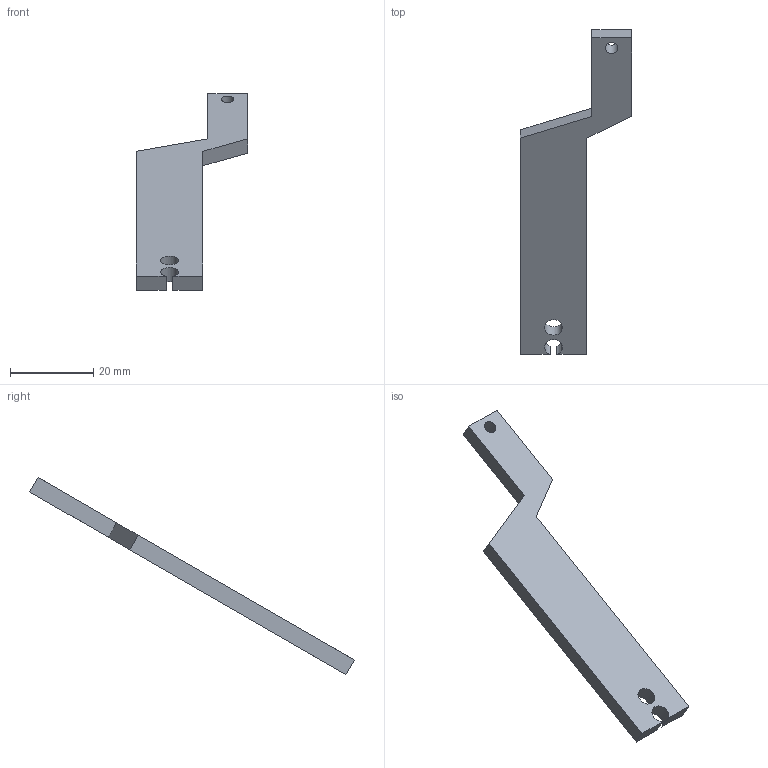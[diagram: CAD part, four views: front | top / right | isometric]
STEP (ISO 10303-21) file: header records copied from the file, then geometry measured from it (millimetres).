
FILE_DESCRIPTION(('Open CASCADE Model'),'2;1');
FILE_NAME('Open CASCADE Shape Model','2026-10-31T23:30:35',('Author'),( 'Open CASCADE'),'Open CASCADE STEP processor 7.9','Open CASCADE 7.9' ,'Unknown');
FILE_SCHEMA(('AUTOMOTIVE_DESIGN { 1 0 10303 214 1 1 1 1 }'));
Length unit declared in the file: millimetre
Products named in the file (1): Open CASCADE STEP translator 7.9 25
Bounding box: 26.8 x 78.04 x 47.36 mm (x, y, z)
Volume: 4840.5 mm3; surface area: 3432.3 mm2
Topology: 1 solids, 1 shells, 14 faces, 36 edges, 24 vertices
Faces by surface type: plane 11, cylinder 3
Full cylindrical faces by diameter (mm): 3 x1, 4.3 x1
Entity records: 930 total; most frequent: CARTESIAN_POINT 183, DIRECTION 138, LINE 96, VECTOR 96, ORIENTED_EDGE 72, PCURVE 72, DEFINITIONAL_REPRESENTATION 72, EDGE_CURVE 36
